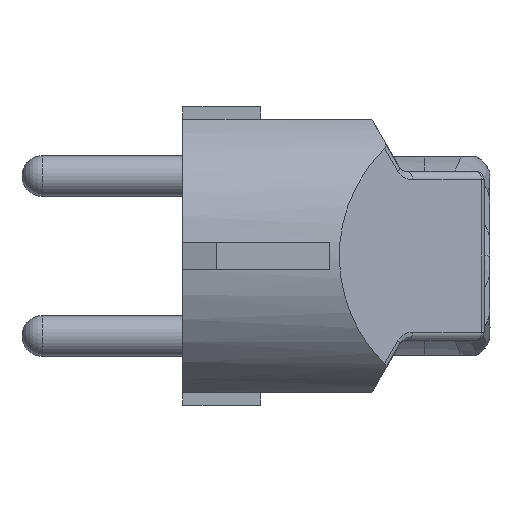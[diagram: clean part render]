
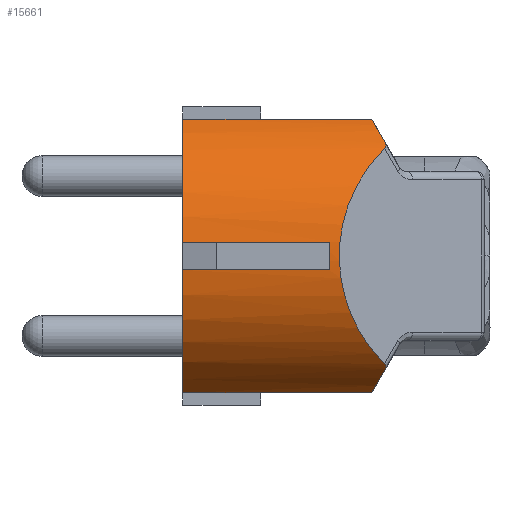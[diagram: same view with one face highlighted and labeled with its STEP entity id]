
A CAD part, left-side view. The second image highlights one B-rep face of the part: STEP entity #15661.
In plain terms, the highlighted cylindrical face has radius 18.085 mm (diameter 36.17 mm), a partial arc.
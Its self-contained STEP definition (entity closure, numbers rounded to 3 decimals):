
#144 = CARTESIAN_POINT ( 'NONE',  ( -90.01, 64.075, 117.407 ) ) ;
#206 = CARTESIAN_POINT ( 'NONE',  ( -98.149, 41.743, 133.557 ) ) ;
#284 = CARTESIAN_POINT ( 'NONE',  ( -108.019, 46.775, 115.757 ) ) ;
#321 = CARTESIAN_POINT ( 'NONE',  ( -99.623, 41.314, 132.814 ) ) ;
#560 = FACE_OUTER_BOUND ( 'NONE', #8526, .T. ) ;
#595 = AXIS2_PLACEMENT_3D ( 'NONE', #6032, #9863, #14428 ) ;
#1029 = CARTESIAN_POINT ( 'NONE',  ( -102.203, 40.13, 130.763 ) ) ;
#1416 = ORIENTED_EDGE ( 'NONE', *, *, #23836, .F. ) ;
#1451 = CARTESIAN_POINT ( 'NONE',  ( -98.149, 41.743, 133.557 ) ) ;
#1493 = CARTESIAN_POINT ( 'NONE',  ( -102.428, 40.049, 130.555 ) ) ;
#1575 = VERTEX_POINT ( 'NONE', #22959 ) ;
#1622 = CARTESIAN_POINT ( 'NONE',  ( -102.849, 40.227, 130.143 ) ) ;
#1640 = EDGE_CURVE ( 'NONE', #8813, #1575, #19391, .T. ) ;
#2063 = VECTOR ( 'NONE', #5195, 1000. ) ;
#2106 = VERTEX_POINT ( 'NONE', #18531 ) ;
#2328 = ORIENTED_EDGE ( 'NONE', *, *, #1640, .T. ) ;
#2906 = CIRCLE ( 'NONE', #7991, 18.085 ) ;
#3066 = CARTESIAN_POINT ( 'NONE',  ( -108.019, 45.573, 115.757 ) ) ;
#3152 = DIRECTION ( 'NONE',  ( 0., 0., -1. ) ) ;
#3345 = LINE ( 'NONE', #13108, #22559 ) ;
#3366 = EDGE_CURVE ( 'NONE', #14073, #8813, #7595, .T. ) ;
#3564 = CARTESIAN_POINT ( 'NONE',  ( -99.623, 41.314, 102. ) ) ;
#3591 = VERTEX_POINT ( 'NONE', #15588 ) ;
#4405 = CARTESIAN_POINT ( 'NONE',  ( -100.983, 40.773, 131.876 ) ) ;
#4575 = EDGE_CURVE ( 'NONE', #2106, #22969, #10677, .T. ) ;
#4914 = EDGE_CURVE ( 'NONE', #16043, #3591, #6842, .T. ) ;
#5005 = DIRECTION ( 'NONE',  ( 0., 1., 0. ) ) ;
#5195 = DIRECTION ( 'NONE',  ( 0., 1., 0. ) ) ;
#5522 = AXIS2_PLACEMENT_3D ( 'NONE', #144, #8311, #20021 ) ;
#5814 = B_SPLINE_CURVE_WITH_KNOTS ( 'NONE', 3,
 ( #1622, #13603, #15200, #17421, #11213, #1493, #17547, #25324 ),
 .UNSPECIFIED., .F., .F.,
 ( 4, 2, 2, 4 ),
 ( 0., 0.25, 0.5, 1. ),
 .UNSPECIFIED. ) ;
#6032 = CARTESIAN_POINT ( 'NONE',  ( -90.01, 46.775, 117.407 ) ) ;
#6239 = VERTEX_POINT ( 'NONE', #21154 ) ;
#6842 =( BOUNDED_CURVE ( )  B_SPLINE_CURVE ( 3, ( #13063, #9118, #17131, #14909 ),
 .UNSPECIFIED., .F., .T. ) 
 B_SPLINE_CURVE_WITH_KNOTS ( ( 4, 4 ),
 ( 5.502, 7.065 ),
 .UNSPECIFIED. ) 
 CURVE ( )  GEOMETRIC_REPRESENTATION_ITEM ( )  RATIONAL_B_SPLINE_CURVE ( ( 1., 0.807, 0.807, 1. ) ) 
 REPRESENTATION_ITEM ( '' )  );
#6868 = CARTESIAN_POINT ( 'NONE',  ( -102.203, 40.13, 104.051 ) ) ;
#7038 = LINE ( 'NONE', #3066, #8821 ) ;
#7595 = LINE ( 'NONE', #7714, #21956 ) ;
#7714 = CARTESIAN_POINT ( 'NONE',  ( -98.149, 45.573, 133.557 ) ) ;
#7918 = EDGE_CURVE ( 'NONE', #6239, #10291, #14449, .T. ) ;
#7991 = AXIS2_PLACEMENT_3D ( 'NONE', #9800, #20326, #14138 ) ;
#8065 = ORIENTED_EDGE ( 'NONE', *, *, #20284, .F. ) ;
#8084 =( BOUNDED_CURVE ( )  B_SPLINE_CURVE ( 3, ( #17839, #4405, #321, #206 ),
 .UNSPECIFIED., .F., .T. ) 
 B_SPLINE_CURVE_WITH_KNOTS ( ( 4, 4 ),
 ( 5.543, 5.816 ),
 .UNSPECIFIED. ) 
 CURVE ( )  GEOMETRIC_REPRESENTATION_ITEM ( )  RATIONAL_B_SPLINE_CURVE ( ( 1., 0.994, 0.994, 1. ) ) 
 REPRESENTATION_ITEM ( '' )  );
#8275 = CARTESIAN_POINT ( 'NONE',  ( -98.149, 64.075, 133.557 ) ) ;
#8311 = DIRECTION ( 'NONE',  ( 0., -1., 0. ) ) ;
#8526 = EDGE_LOOP ( 'NONE', ( #24407, #18152, #15149, #10545, #2328, #8065, #23787, #21875, #19449, #1416, #23658, #10224 ) ) ;
#8813 = VERTEX_POINT ( 'NONE', #8275 ) ;
#8821 = VECTOR ( 'NONE', #19141, 1000. ) ;
#9049 = EDGE_CURVE ( 'NONE', #25973, #14073, #8084, .T. ) ;
#9118 = CARTESIAN_POINT ( 'NONE',  ( -110.262, 47.785, 122.67 ) ) ;
#9800 = CARTESIAN_POINT ( 'NONE',  ( -90.01, 64.075, 117.407 ) ) ;
#9863 = DIRECTION ( 'NONE',  ( 0., -1., 0. ) ) ;
#10224 = ORIENTED_EDGE ( 'NONE', *, *, #19612, .T. ) ;
#10291 = VERTEX_POINT ( 'NONE', #16639 ) ;
#10545 = ORIENTED_EDGE ( 'NONE', *, *, #3366, .T. ) ;
#10677 = CIRCLE ( 'NONE', #595, 18.085 ) ;
#11060 = CARTESIAN_POINT ( 'NONE',  ( -102.316, 40.071, 104.153 ) ) ;
#11213 = CARTESIAN_POINT ( 'NONE',  ( -102.595, 40.072, 130.394 ) ) ;
#11266 = EDGE_CURVE ( 'NONE', #22370, #20087, #2906, .T. ) ;
#11946 = CARTESIAN_POINT ( 'NONE',  ( -102.849, 40.227, 130.143 ) ) ;
#12799 = CARTESIAN_POINT ( 'NONE',  ( -102.849, 40.227, 104.671 ) ) ;
#13063 = CARTESIAN_POINT ( 'NONE',  ( -102.849, 40.227, 130.143 ) ) ;
#13108 = CARTESIAN_POINT ( 'NONE',  ( -108.019, 45.573, 119.057 ) ) ;
#13603 = CARTESIAN_POINT ( 'NONE',  ( -102.804, 40.181, 130.188 ) ) ;
#13984 = LINE ( 'NONE', #20170, #2063 ) ;
#14073 = VERTEX_POINT ( 'NONE', #1451 ) ;
#14138 = DIRECTION ( 'NONE',  ( 0., 0., -1. ) ) ;
#14428 = DIRECTION ( 'NONE',  ( 0., 0., -1. ) ) ;
#14449 =( BOUNDED_CURVE ( )  B_SPLINE_CURVE ( 3, ( #25847, #3564, #21617, #17667 ),
 .UNSPECIFIED., .F., .T. ) 
 B_SPLINE_CURVE_WITH_KNOTS ( ( 4, 4 ),
 ( 0.467, 0.74 ),
 .UNSPECIFIED. ) 
 CURVE ( )  GEOMETRIC_REPRESENTATION_ITEM ( )  RATIONAL_B_SPLINE_CURVE ( ( 1., 0.994, 0.994, 1. ) ) 
 REPRESENTATION_ITEM ( '' )  );
#14764 = CARTESIAN_POINT ( 'NONE',  ( -102.427, 40.049, 104.257 ) ) ;
#14909 = CARTESIAN_POINT ( 'NONE',  ( -102.849, 40.227, 104.671 ) ) ;
#15149 = ORIENTED_EDGE ( 'NONE', *, *, #9049, .T. ) ;
#15200 = CARTESIAN_POINT ( 'NONE',  ( -102.755, 40.144, 130.237 ) ) ;
#15588 = CARTESIAN_POINT ( 'NONE',  ( -102.849, 40.227, 104.671 ) ) ;
#15661 = ADVANCED_FACE ( 'NONE', ( #560 ), #22672, .T. ) ;
#16043 = VERTEX_POINT ( 'NONE', #11946 ) ;
#16639 = CARTESIAN_POINT ( 'NONE',  ( -102.203, 40.13, 104.051 ) ) ;
#17131 = CARTESIAN_POINT ( 'NONE',  ( -110.262, 47.785, 112.144 ) ) ;
#17421 = CARTESIAN_POINT ( 'NONE',  ( -102.651, 40.089, 130.34 ) ) ;
#17547 = CARTESIAN_POINT ( 'NONE',  ( -102.316, 40.071, 130.66 ) ) ;
#17667 = CARTESIAN_POINT ( 'NONE',  ( -102.203, 40.13, 104.051 ) ) ;
#17701 = DIRECTION ( 'NONE',  ( 0., 1., 0. ) ) ;
#17839 = CARTESIAN_POINT ( 'NONE',  ( -102.203, 40.13, 130.763 ) ) ;
#18033 = AXIS2_PLACEMENT_3D ( 'NONE', #23300, #5005, #3152 ) ;
#18152 = ORIENTED_EDGE ( 'NONE', *, *, #24538, .T. ) ;
#18531 = CARTESIAN_POINT ( 'NONE',  ( -108.019, 46.775, 119.057 ) ) ;
#19141 = DIRECTION ( 'NONE',  ( 0., -1., 0. ) ) ;
#19391 = CIRCLE ( 'NONE', #5522, 18.085 ) ;
#19449 = ORIENTED_EDGE ( 'NONE', *, *, #11266, .T. ) ;
#19612 = EDGE_CURVE ( 'NONE', #10291, #3591, #22184, .T. ) ;
#20021 = DIRECTION ( 'NONE',  ( 0., 0., -1. ) ) ;
#20087 = VERTEX_POINT ( 'NONE', #20761 ) ;
#20170 = CARTESIAN_POINT ( 'NONE',  ( -98.149, 45.573, 101.257 ) ) ;
#20284 = EDGE_CURVE ( 'NONE', #2106, #1575, #3345, .T. ) ;
#20326 = DIRECTION ( 'NONE',  ( 0., -1., 0. ) ) ;
#20761 = CARTESIAN_POINT ( 'NONE',  ( -98.149, 64.075, 101.257 ) ) ;
#21154 = CARTESIAN_POINT ( 'NONE',  ( -98.149, 41.743, 101.257 ) ) ;
#21617 = CARTESIAN_POINT ( 'NONE',  ( -100.983, 40.773, 102.937 ) ) ;
#21875 = ORIENTED_EDGE ( 'NONE', *, *, #25323, .F. ) ;
#21956 = VECTOR ( 'NONE', #23891, 1000. ) ;
#22184 = B_SPLINE_CURVE_WITH_KNOTS ( 'NONE', 3,
 ( #6868, #11060, #14764, #22796, #23041, #12799 ),
 .UNSPECIFIED., .F., .F.,
 ( 4, 2, 4 ),
 ( 0., 0.5, 1. ),
 .UNSPECIFIED. ) ;
#22370 = VERTEX_POINT ( 'NONE', #25810 ) ;
#22559 = VECTOR ( 'NONE', #17701, 1000. ) ;
#22672 = CYLINDRICAL_SURFACE ( 'NONE', #18033, 18.085 ) ;
#22796 = CARTESIAN_POINT ( 'NONE',  ( -102.652, 40.079, 104.474 ) ) ;
#22959 = CARTESIAN_POINT ( 'NONE',  ( -108.019, 64.075, 119.057 ) ) ;
#22969 = VERTEX_POINT ( 'NONE', #284 ) ;
#23041 = CARTESIAN_POINT ( 'NONE',  ( -102.76, 40.135, 104.58 ) ) ;
#23300 = CARTESIAN_POINT ( 'NONE',  ( -90.01, 45.573, 117.407 ) ) ;
#23658 = ORIENTED_EDGE ( 'NONE', *, *, #7918, .T. ) ;
#23787 = ORIENTED_EDGE ( 'NONE', *, *, #4575, .T. ) ;
#23836 = EDGE_CURVE ( 'NONE', #6239, #20087, #13984, .T. ) ;
#23891 = DIRECTION ( 'NONE',  ( 0., 1., 0. ) ) ;
#24407 = ORIENTED_EDGE ( 'NONE', *, *, #4914, .F. ) ;
#24538 = EDGE_CURVE ( 'NONE', #16043, #25973, #5814, .T. ) ;
#25323 = EDGE_CURVE ( 'NONE', #22370, #22969, #7038, .T. ) ;
#25324 = CARTESIAN_POINT ( 'NONE',  ( -102.203, 40.13, 130.763 ) ) ;
#25810 = CARTESIAN_POINT ( 'NONE',  ( -108.019, 64.075, 115.757 ) ) ;
#25847 = CARTESIAN_POINT ( 'NONE',  ( -98.149, 41.743, 101.257 ) ) ;
#25973 = VERTEX_POINT ( 'NONE', #1029 ) ;
